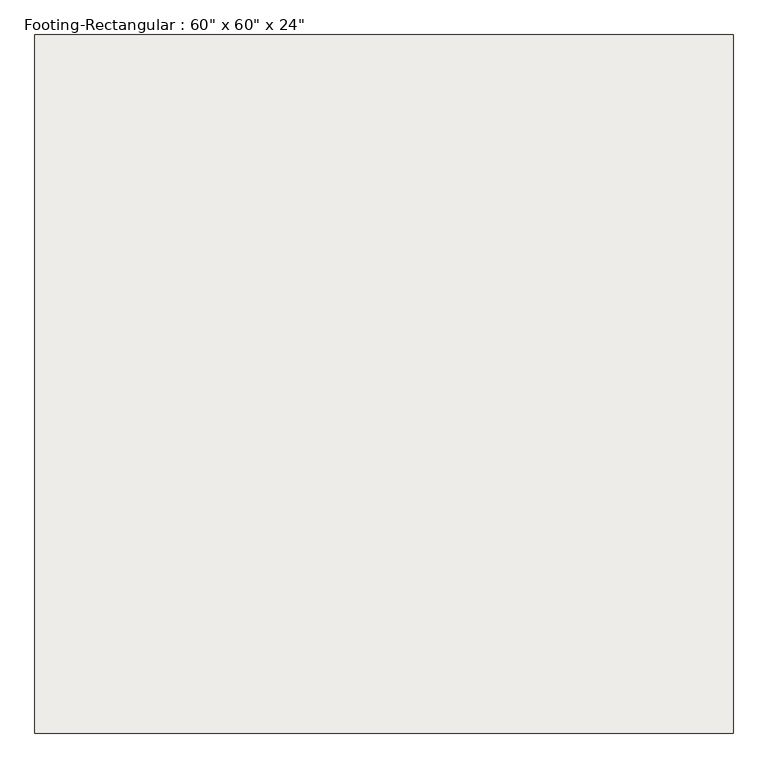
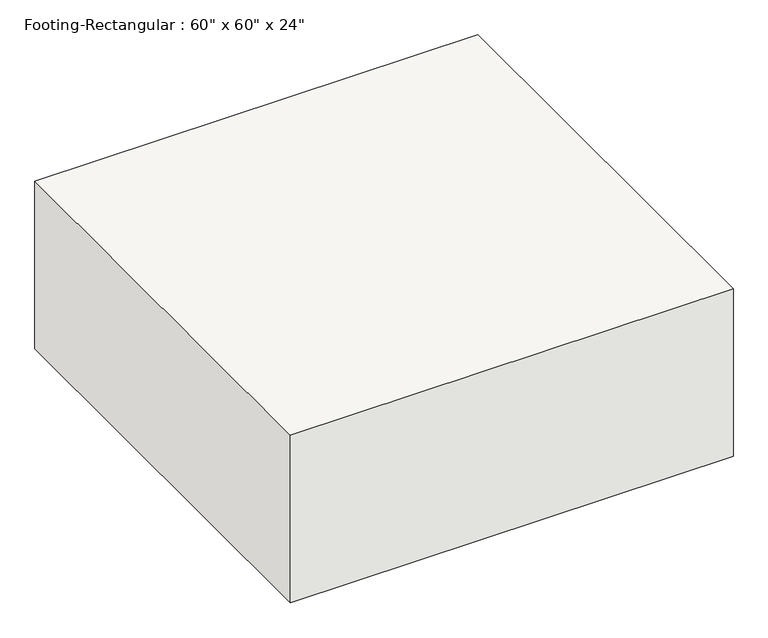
"""IFC4 building model written with IfcOpenShell, lengths in millimetres: slab geometry."""

from ifc_helpers import new_model, si_unit, frame, origin, place, context, project, spatial, polyline, outline, extrude, source, transform, mapped, element, save


def slab_c859e583(model_context):
    return source(origin(), model_context, "Body", "SweptSolid", [
        extrude(outline(polyline([(762.0, 762.0), (762.0, -762.0), (-762.0, -762.0), (-762.0, 762.0), (762.0, 762.0)])), frame((0.0, 0.0, -609.6), z_axis=(0.0, 0.0, 1.0), x_axis=(1.0, 0.0, 0.0)), (0.0, 0.0, 1.0), 609.6),
    ])


if __name__ == "__main__":
    model = new_model("IFC4")
    model_context = context("Model", 3, world=origin())
    ifc_project = project(units=[si_unit("LENGTHUNIT", "METRE", prefix="MILLI")], contexts=[model_context])
    site = spatial("IfcSite", under=ifc_project)
    building = spatial("IfcBuilding", under=site)
    placement = place(None, origin())
    slab_shape = slab_c859e583(model_context)
    element("IfcSlab", 1, ObjectType="Footing-Rectangular : 60\" x 60\" x 24\"", at=placement, inside=building, context=model_context, shape_type="MappedRepresentation", body=[
        mapped(slab_shape, transform((0.0, 0.0, 0.0), x_axis=(1.0, 0.0, 0.0), y_axis=(0.0, 1.0, 0.0), z_axis=(0.0, 0.0, 1.0))),
    ])
    save(model, "model.ifc")
